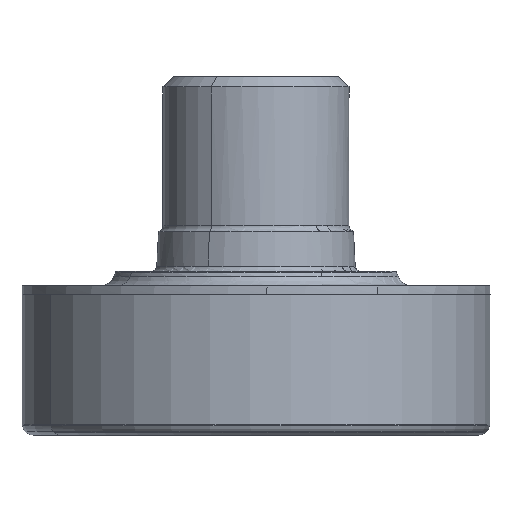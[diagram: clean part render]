
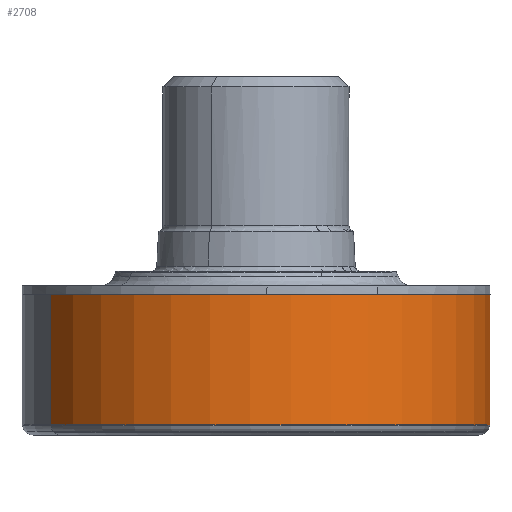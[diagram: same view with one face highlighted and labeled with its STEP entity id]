
A CAD part, left-side view. The second image highlights one B-rep face of the part: STEP entity #2708.
In plain terms, the highlighted face is a revolution surface.
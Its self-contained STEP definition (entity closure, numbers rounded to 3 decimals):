
#2674=AXIS2_PLACEMENT_3D('Circle Axis2P3D',#2672,#2673,$) ;
#2691=AXIS2_PLACEMENT_3D('Circle Axis2P3D',#2689,#2690,$) ;
#2664=CARTESIAN_POINT('Control Point',(0.,8.,-0.78)) ;
#2665=CARTESIAN_POINT('Control Point',(0.,8.,-2.266)) ;
#2666=CARTESIAN_POINT('Control Point',(0.,8.,-3.753)) ;
#2667=CARTESIAN_POINT('Control Point',(0.,8.,-5.24)) ;
#2668=CARTESIAN_POINT('Axis1P Location',(0.,0.,-0.78)) ;
#2672=CARTESIAN_POINT('Axis2P3D Location',(0.,0.,-0.78)) ;
#2676=CARTESIAN_POINT('Vertex',(-3.835,7.021,-0.78)) ;
#2678=CARTESIAN_POINT('Vertex',(3.835,-7.021,-0.78)) ;
#2682=CARTESIAN_POINT('Control Point',(-3.835,7.021,-0.78)) ;
#2683=CARTESIAN_POINT('Control Point',(-3.836,7.021,-2.266)) ;
#2684=CARTESIAN_POINT('Control Point',(-3.836,7.021,-3.753)) ;
#2685=CARTESIAN_POINT('Control Point',(-3.835,7.021,-5.24)) ;
#2686=CARTESIAN_POINT('Vertex',(-3.835,7.021,-5.24)) ;
#2689=CARTESIAN_POINT('Axis2P3D Location',(0.,0.,-5.24)) ;
#2693=CARTESIAN_POINT('Vertex',(3.835,-7.021,-5.24)) ;
#2697=CARTESIAN_POINT('Control Point',(3.835,-7.021,-0.78)) ;
#2698=CARTESIAN_POINT('Control Point',(3.836,-7.021,-2.266)) ;
#2699=CARTESIAN_POINT('Control Point',(3.836,-7.021,-3.753)) ;
#2700=CARTESIAN_POINT('Control Point',(3.835,-7.021,-5.24)) ;
#2669=DIRECTION('Axis1P Direction',(0.,0.,1.)) ;
#2673=DIRECTION('Axis2P3D Direction',(0.,0.,1.)) ;
#2690=DIRECTION('Axis2P3D Direction',(0.,0.,1.)) ;
#2670=AXIS1_PLACEMENT('Revolution Surface Axis1P',#2668,#2669) ;
#2703=ORIENTED_EDGE('',*,*,#2680,.F.) ;
#2704=ORIENTED_EDGE('',*,*,#2688,.T.) ;
#2705=ORIENTED_EDGE('',*,*,#2695,.T.) ;
#2706=ORIENTED_EDGE('',*,*,#2701,.F.) ;
#2708=ADVANCED_FACE('CUT',(#2707),#2671,.F.) ;
#2663=B_SPLINE_CURVE_WITH_KNOTS('',3,(#2664,#2665,#2666,#2667),.UNSPECIFIED.,.F.,.U.,(4,4),(0.,4.46),.UNSPECIFIED.) ;
#2681=B_SPLINE_CURVE_WITH_KNOTS('',3,(#2682,#2683,#2684,#2685),.UNSPECIFIED.,.F.,.U.,(4,4),(0.,4.46),.UNSPECIFIED.) ;
#2696=B_SPLINE_CURVE_WITH_KNOTS('',3,(#2697,#2698,#2699,#2700),.UNSPECIFIED.,.F.,.U.,(4,4),(0.,4.46),.UNSPECIFIED.) ;
#2675=CIRCLE('generated circle',#2674,8.) ;
#2692=CIRCLE('generated circle',#2691,8.) ;
#2680=EDGE_CURVE('',#2677,#2679,#2675,.T.) ;
#2688=EDGE_CURVE('',#2677,#2687,#2681,.T.) ;
#2695=EDGE_CURVE('',#2687,#2694,#2692,.T.) ;
#2701=EDGE_CURVE('',#2679,#2694,#2696,.T.) ;
#2702=EDGE_LOOP('',(#2703,#2704,#2705,#2706)) ;
#2707=FACE_OUTER_BOUND('',#2702,.T.) ;
#2671=SURFACE_OF_REVOLUTION('Surface of Revolution',#2663,#2670) ;
#2677=VERTEX_POINT('',#2676) ;
#2679=VERTEX_POINT('',#2678) ;
#2687=VERTEX_POINT('',#2686) ;
#2694=VERTEX_POINT('',#2693) ;
